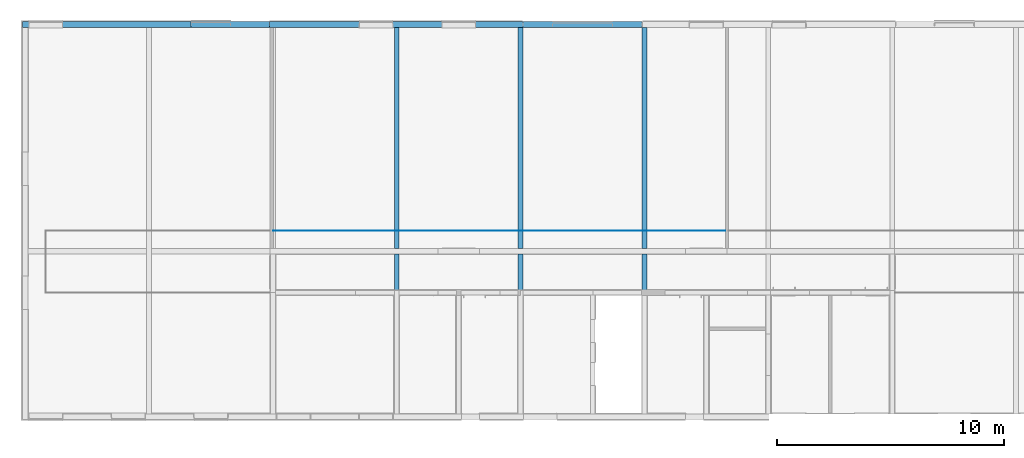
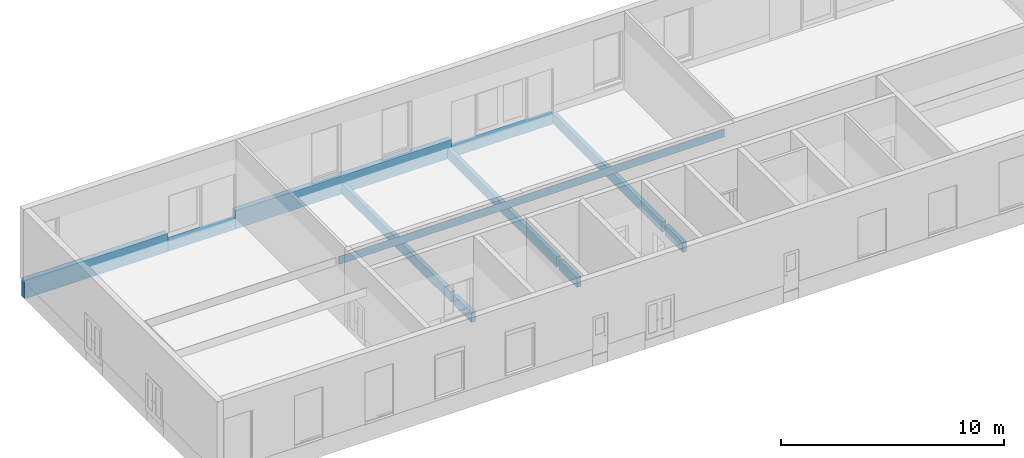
# One storey, part 11 of 22: 8 walls, 3 openings.
"""IFC4X3 building model written with IfcOpenShell, lengths in millimetres."""

from ifc_helpers import new_model, entity, si_unit, converted_unit, derived_unit, direction, frame, frame_2d, origin, origin_2d_with_axis, place, context, subcontext, project, spatial, rectangle, extrude, material, layer, layer_set, type_object, element, save


model = new_model("IFC4X3")

# Units and contexts
model_context = context("Model", 3, precision=0.01, world=origin(), true_north=direction((6.12303176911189e-17, 1.0)))
body_context = subcontext(model_context, "Body", "Model", "MODEL_VIEW")
ifc_project = project(units=[si_unit("LENGTHUNIT", "METRE", prefix="MILLI"), si_unit("AREAUNIT", "SQUARE_METRE"), si_unit("VOLUMEUNIT", "CUBIC_METRE"), converted_unit("PLANEANGLEUNIT", "DEGREE", entity("IfcPlaneAngleMeasure", 0.0174532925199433), si_unit("PLANEANGLEUNIT", "RADIAN"), dimensions=[0, 0, 0, 0, 0, 0, 0]), si_unit("MASSUNIT", "GRAM", prefix="KILO"), derived_unit("MASSDENSITYUNIT", [(si_unit("MASSUNIT", "GRAM", prefix="KILO"), 1), (si_unit("LENGTHUNIT", "METRE"), -3)]), derived_unit("IONCONCENTRATIONUNIT", [(si_unit("MASSUNIT", "GRAM", prefix="KILO"), 1), (si_unit("LENGTHUNIT", "METRE"), -3)]), derived_unit("MOMENTOFINERTIAUNIT", [(si_unit("LENGTHUNIT", "METRE"), 4)]), si_unit("TIMEUNIT", "SECOND"), si_unit("FREQUENCYUNIT", "HERTZ"), si_unit("THERMODYNAMICTEMPERATUREUNIT", "DEGREE_CELSIUS"), derived_unit("THERMALTRANSMITTANCEUNIT", [(si_unit("MASSUNIT", "GRAM", prefix="KILO"), 1), (si_unit("THERMODYNAMICTEMPERATUREUNIT", "KELVIN"), -1), (si_unit("TIMEUNIT", "SECOND"), -3)]), derived_unit("THERMALCONDUCTANCEUNIT", [(si_unit("MASSUNIT", "GRAM", prefix="KILO"), 1), (si_unit("THERMODYNAMICTEMPERATUREUNIT", "KELVIN"), -1), (si_unit("TIMEUNIT", "SECOND"), -3), (si_unit("LENGTHUNIT", "METRE"), 1)]), derived_unit("VOLUMETRICFLOWRATEUNIT", [(si_unit("LENGTHUNIT", "METRE", prefix="DECI"), 3), (si_unit("TIMEUNIT", "SECOND"), -1)]), derived_unit("MASSFLOWRATEUNIT", [(si_unit("MASSUNIT", "GRAM", prefix="KILO"), 1), (si_unit("TIMEUNIT", "SECOND"), -1)]), derived_unit("ROTATIONALFREQUENCYUNIT", [(si_unit("TIMEUNIT", "SECOND"), -1)]), si_unit("ELECTRICCURRENTUNIT", "AMPERE"), si_unit("ELECTRICVOLTAGEUNIT", "VOLT"), si_unit("POWERUNIT", "WATT"), si_unit("FORCEUNIT", "NEWTON", prefix="KILO"), si_unit("ILLUMINANCEUNIT", "LUX"), si_unit("LUMINOUSFLUXUNIT", "LUMEN"), si_unit("LUMINOUSINTENSITYUNIT", "CANDELA"), si_unit("ENERGYUNIT", "JOULE"), derived_unit("USERDEFINED", [(si_unit("MASSUNIT", "GRAM", prefix="KILO"), -1), (si_unit("LENGTHUNIT", "METRE"), -2), (si_unit("TIMEUNIT", "SECOND"), 3), (si_unit("LUMINOUSFLUXUNIT", "LUMEN"), 1)]), derived_unit("USERDEFINED", [(si_unit("MASSUNIT", "GRAM", prefix="KILO"), 1), (si_unit("TIMEUNIT", "SECOND"), -3), (si_unit("LENGTHUNIT", "METRE"), 3), (si_unit("ELECTRICCURRENTUNIT", "AMPERE"), -2)]), derived_unit("SOUNDPOWERUNIT", [(si_unit("MASSUNIT", "GRAM", prefix="KILO"), 1), (si_unit("TIMEUNIT", "SECOND"), -3), (si_unit("LENGTHUNIT", "METRE"), 2)]), derived_unit("SOUNDPRESSUREUNIT", [(si_unit("MASSUNIT", "GRAM", prefix="KILO"), 1), (si_unit("LENGTHUNIT", "METRE"), -1), (si_unit("TIMEUNIT", "SECOND"), -2)]), derived_unit("LINEARVELOCITYUNIT", [(si_unit("LENGTHUNIT", "METRE"), 1), (si_unit("TIMEUNIT", "SECOND"), -1)]), si_unit("PRESSUREUNIT", "PASCAL"), derived_unit("USERDEFINED", [(si_unit("MASSUNIT", "GRAM", prefix="KILO"), 1), (si_unit("LENGTHUNIT", "METRE"), -2), (si_unit("TIMEUNIT", "SECOND"), -2)]), derived_unit("LINEARFORCEUNIT", [(si_unit("MASSUNIT", "GRAM", prefix="KILO"), 1), (si_unit("TIMEUNIT", "SECOND"), -2)]), derived_unit("PLANARFORCEUNIT", [(si_unit("MASSUNIT", "GRAM", prefix="KILO"), 1), (si_unit("LENGTHUNIT", "METRE"), -1), (si_unit("TIMEUNIT", "SECOND"), -2)]), derived_unit("SPECIFICHEATCAPACITYUNIT", [(si_unit("THERMODYNAMICTEMPERATUREUNIT", "KELVIN"), -1), (si_unit("LENGTHUNIT", "METRE"), 2), (si_unit("TIMEUNIT", "SECOND"), -2)]), derived_unit("HEATFLUXDENSITYUNIT", [(si_unit("MASSUNIT", "GRAM", prefix="KILO"), 1), (si_unit("TIMEUNIT", "SECOND"), -3)]), derived_unit("HEATINGVALUEUNIT", [(si_unit("LENGTHUNIT", "METRE"), 2), (si_unit("TIMEUNIT", "SECOND"), -2)]), derived_unit("VAPORPERMEABILITYUNIT", [(si_unit("LENGTHUNIT", "METRE"), -1), (si_unit("TIMEUNIT", "SECOND"), 1)]), derived_unit("DYNAMICVISCOSITYUNIT", [(si_unit("MASSUNIT", "GRAM", prefix="KILO"), 1), (si_unit("TIMEUNIT", "SECOND"), -1), (si_unit("LENGTHUNIT", "METRE"), -1)]), derived_unit("THERMALEXPANSIONCOEFFICIENTUNIT", [(si_unit("THERMODYNAMICTEMPERATUREUNIT", "KELVIN"), -1)]), derived_unit("MODULUSOFELASTICITYUNIT", [(si_unit("MASSUNIT", "GRAM", prefix="KILO"), 1), (si_unit("LENGTHUNIT", "METRE"), -1), (si_unit("TIMEUNIT", "SECOND"), -2)]), derived_unit("ISOTHERMALMOISTURECAPACITYUNIT", [(si_unit("MASSUNIT", "GRAM", prefix="KILO"), -1), (si_unit("LENGTHUNIT", "METRE"), 3)]), derived_unit("MOISTUREDIFFUSIVITYUNIT", [(si_unit("TIMEUNIT", "SECOND"), -1), (si_unit("LENGTHUNIT", "METRE"), 2)]), derived_unit("AREADENSITYUNIT", [(si_unit("MASSUNIT", "GRAM", prefix="KILO"), 1), (si_unit("LENGTHUNIT", "METRE"), 2)]), derived_unit("MASSPERLENGTHUNIT", [(si_unit("MASSUNIT", "GRAM", prefix="KILO"), 1), (si_unit("LENGTHUNIT", "METRE"), -1)]), derived_unit("THERMALRESISTANCEUNIT", [(si_unit("MASSUNIT", "GRAM", prefix="KILO"), -1), (si_unit("TIMEUNIT", "SECOND"), 3), (si_unit("THERMODYNAMICTEMPERATUREUNIT", "KELVIN"), 1)]), derived_unit("ACCELERATIONUNIT", [(si_unit("LENGTHUNIT", "METRE"), 1), (si_unit("TIMEUNIT", "SECOND"), -2)]), derived_unit("ANGULARVELOCITYUNIT", [(si_unit("TIMEUNIT", "SECOND"), -1), (si_unit("PLANEANGLEUNIT", "RADIAN"), 1)]), derived_unit("LINEARSTIFFNESSUNIT", [(si_unit("MASSUNIT", "GRAM", prefix="KILO"), 1), (si_unit("TIMEUNIT", "SECOND"), -2)]), derived_unit("WARPINGCONSTANTUNIT", [(si_unit("LENGTHUNIT", "METRE"), 6)]), derived_unit("LINEARMOMENTUNIT", [(si_unit("MASSUNIT", "GRAM", prefix="KILO"), 1), (si_unit("LENGTHUNIT", "METRE"), 1), (si_unit("TIMEUNIT", "SECOND"), -2)]), derived_unit("TORQUEUNIT", [(si_unit("MASSUNIT", "GRAM", prefix="KILO"), 1), (si_unit("LENGTHUNIT", "METRE"), 2), (si_unit("TIMEUNIT", "SECOND"), -2)])], contexts=[model_context])

# Site, building, storey
site_placement = place(None, origin())
site = spatial("IfcSite", under=ifc_project, at=site_placement, Name="Default", CompositionType="ELEMENT")
building_placement = place(site_placement, origin())
building = spatial("IfcBuilding", under=site, at=building_placement, Name="事務所ビル", CompositionType="ELEMENT")
storey_placement = place(building_placement, origin())
storey = spatial("IfcBuildingStorey", under=building, at=storey_placement, Name="1FL", CompositionType="ELEMENT", Elevation=0.0)

# Walls
ifc_material_1 = material(Name="*コンクリート")
ifc_layer_1 = layer(ifc_material_1, 270.0, Name="*コンクリート")
ifc_layer_set_1 = layer_set([ifc_layer_1], Name="標準壁:(基礎梁)RC_w270h1000")
wall_type_1 = type_object("IfcWallType", Name="標準壁:(基礎梁)RC_w270h1000", PredefinedType="STANDARD", material=ifc_layer_set_1)
wall_1_placement = place(storey_placement, frame((-120.0, 17290.0, -600.0)))
element("IfcWall", 1, at=wall_1_placement, inside=storey, type_object=wall_type_1, material=ifc_layer_set_1, Name="標準壁:(基礎梁)RC_w270h1000", ObjectType="標準壁:(基礎梁)RC_w270h1000", PredefinedType="NOTDEFINED", context=body_context, shape_type="SweptSolid", body=[
    extrude(rectangle(XDim=7420.0, YDim=269.999999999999, at=frame_2d((3710.0, -2.8421709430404e-13), x_axis=(-1.0, 0.0))), origin(), (0.0, 0.0, 1.0), 1000.0),
])
wall_2_placement = place(storey_placement, frame((10780.0, 17290.0, -600.0)))
element("IfcWall", 2, at=wall_2_placement, inside=storey, type_object=wall_type_1, material=ifc_layer_set_1, Name="標準壁:(基礎梁)RC_w270h1000", ObjectType="標準壁:(基礎梁)RC_w270h1000", PredefinedType="NOTDEFINED", context=body_context, shape_type="SweptSolid", body=[
    extrude(rectangle(XDim=11165.0, YDim=269.999999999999, at=frame_2d((5582.5, 3.83693077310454e-13), x_axis=(-1.0, 0.0))), origin(), (0.0, 0.0, 1.0), 1000.0),
])
ifc_layer_2 = layer(ifc_material_1, 270.0, Name="*コンクリート")
ifc_layer_set_2 = layer_set([ifc_layer_2], Name="標準壁:(基礎梁)RC_w270h650")
wall_type_2 = type_object("IfcWallType", Name="標準壁:(基礎梁)RC_w270h650", PredefinedType="STANDARD", material=ifc_layer_set_2)
wall_3_placement = place(storey_placement, frame((7300.0, 17290.0, -600.0)))
element("IfcWall", 3, at=wall_3_placement, inside=storey, type_object=wall_type_2, material=ifc_layer_set_2, Name="標準壁:(基礎梁)RC_w270h650", ObjectType="標準壁:(基礎梁)RC_w270h650", PredefinedType="NOTDEFINED", context=body_context, shape_type="SweptSolid", body=[
    extrude(rectangle(XDim=3480.0, YDim=269.999999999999, at=frame_2d((1740.0, -2.41584530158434e-13), x_axis=(-1.0, 0.0))), origin(), (0.0, 0.0, 1.0), 550.0),
])
wall_4_placement = place(storey_placement, frame((21945.0, 17290.0, -600.0)))
element("IfcWall", 4, at=wall_4_placement, inside=storey, type_object=wall_type_2, material=ifc_layer_set_2, Name="標準壁:(基礎梁)RC_w270h650", ObjectType="標準壁:(基礎梁)RC_w270h650", PredefinedType="NOTDEFINED", context=body_context, shape_type="SweptSolid", body=[
    extrude(rectangle(XDim=5250.00000000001, YDim=269.999999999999, at=frame_2d((2625.0, -3.26849658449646e-13), x_axis=(-1.0, 0.0))), origin(), (0.0, 0.0, 1.0), 550.0),
])

# Wall, opening
ifc_layer_3 = layer(ifc_material_1, 210.0, Name="*コンクリート")
ifc_layer_set_3 = layer_set([ifc_layer_3], Name="標準壁:(基礎梁)RC_w210h650")
wall_type_3 = type_object("IfcWallType", Name="標準壁:(基礎梁)RC_w210h650", PredefinedType="STANDARD", material=ifc_layer_set_3)
wall_5_placement = place(storey_placement, frame((27300.0, 5565.0, -600.0), z_axis=(0.0, 0.0, 1.0), x_axis=(0.0, 1.0, 0.0)))
wall_5 = element("IfcWall", 5, at=wall_5_placement, inside=storey, type_object=wall_type_3, material=ifc_layer_set_3, Name="標準壁:(基礎梁)RC_w210h650", ObjectType="標準壁:(基礎梁)RC_w210h650", PredefinedType="NOTDEFINED", context=body_context, shape_type="SweptSolid", body=[
    extrude(rectangle(XDim=11590.0, YDim=210.000000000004, at=frame_2d((5795.0, -7.95807864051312e-13), x_axis=(-1.0, 0.0))), origin(), (0.0, 0.0, 1.0), 550.0),
])
opening_1_placement = place(storey_placement, frame((27300.0, 5565.0, -600.0), z_axis=(0.0, 0.0, 1.0), x_axis=(0.0, 1.0, 0.0)))
element("IfcOpeningElement", 6, at=opening_1_placement, cuts=wall_5, Name="標準壁:(基礎梁)RC_w210h650:1", PredefinedType="OPENING", context=body_context, shape_type="SweptSolid", body=[
    extrude(rectangle(XDim=550.0, YDim=210.0, at=frame_2d((0.0, 2.16715534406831e-12), x_axis=(1.0, 0.0))), frame((1595.0, 0.0, 275.0), z_axis=(1.0, 0.0, 0.0), x_axis=(0.0, 0.0, -1.0)), (0.0, 0.0, 1.0), 240.0),
])

wall_6_placement = place(storey_placement, frame((21840.0, 5565.0, -600.0), z_axis=(0.0, 0.0, 1.0), x_axis=(0.0, 1.0, 0.0)))
wall_6 = element("IfcWall", 7, at=wall_6_placement, inside=storey, type_object=wall_type_3, material=ifc_layer_set_3, Name="標準壁:(基礎梁)RC_w210h650", ObjectType="標準壁:(基礎梁)RC_w210h650", PredefinedType="NOTDEFINED", context=body_context, shape_type="SweptSolid", body=[
    extrude(rectangle(XDim=11590.0, YDim=210.000000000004, at=frame_2d((5795.0, -7.95807864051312e-13), x_axis=(-1.0, 0.0))), origin(), (0.0, 0.0, 1.0), 550.0),
])
opening_2_placement = place(storey_placement, frame((21840.0, 5565.0, -600.0), z_axis=(0.0, 0.0, 1.0), x_axis=(0.0, 1.0, 0.0)))
element("IfcOpeningElement", 8, at=opening_2_placement, cuts=wall_6, Name="標準壁:(基礎梁)RC_w210h650:1", PredefinedType="OPENING", context=body_context, shape_type="SweptSolid", body=[
    extrude(rectangle(XDim=550.0, YDim=210.0, at=frame_2d((0.0, 2.16715534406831e-12), x_axis=(1.0, 0.0))), frame((1595.0, 0.0, 275.0), z_axis=(1.0, 0.0, 0.0), x_axis=(0.0, 0.0, -1.0)), (0.0, 0.0, 1.0), 240.0),
])

wall_7_placement = place(storey_placement, frame((16380.0, 5565.0, -600.0), z_axis=(0.0, 0.0, 1.0), x_axis=(0.0, 1.0, 0.0)))
wall_7 = element("IfcWall", 9, at=wall_7_placement, inside=storey, type_object=wall_type_3, material=ifc_layer_set_3, Name="標準壁:(基礎梁)RC_w210h650", ObjectType="標準壁:(基礎梁)RC_w210h650", PredefinedType="NOTDEFINED", context=body_context, shape_type="SweptSolid", body=[
    extrude(rectangle(XDim=11590.0, YDim=210.0, at=frame_2d((5795.0, -1.98951966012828e-13), x_axis=(-1.0, 0.0))), origin(), (0.0, 0.0, 1.0), 550.0),
])
opening_3_placement = place(storey_placement, frame((16380.0, 5565.0, -600.0), z_axis=(0.0, 0.0, 1.0), x_axis=(0.0, 1.0, 0.0)))
element("IfcOpeningElement", 10, at=opening_3_placement, cuts=wall_7, Name="標準壁:(基礎梁)RC_w210h650:1", PredefinedType="OPENING", context=body_context, shape_type="SweptSolid", body=[
    extrude(rectangle(XDim=550.0, YDim=210.0, at=origin_2d_with_axis()), frame((1595.0, 0.0, 275.0), z_axis=(1.0, 0.0, 0.0), x_axis=(0.0, 0.0, -1.0)), (0.0, 0.0, 1.0), 240.0),
])

# Wall
ifc_material_2 = material(Name="<Unnamed>")
ifc_layer_4 = layer(ifc_material_2, 15.0, Name="Layer")
ifc_layer_set_4 = layer_set([ifc_layer_4], Name="標準壁:GB-R15")
wall_type_4 = type_object("IfcWallType", Name="標準壁:GB-R15", PredefinedType="STANDARD", material=ifc_layer_set_4)
wall_8_placement = place(storey_placement, frame((10938.0, 8190.0, 2850.0)))
element("IfcWall", 11, at=wall_8_placement, inside=storey, type_object=wall_type_4, material=ifc_layer_set_4, Name="標準壁:GB-R15", ObjectType="標準壁:GB-R15", PredefinedType="NOTDEFINED", context=body_context, shape_type="SweptSolid", body=[
    extrude(rectangle(XDim=19927.0, YDim=15.0000000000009, at=frame_2d((9963.5, 0.0), x_axis=(-1.0, 0.0))), origin(), (0.0, 0.0, 1.0), 440.0),
])

save(model, "model.ifc")
